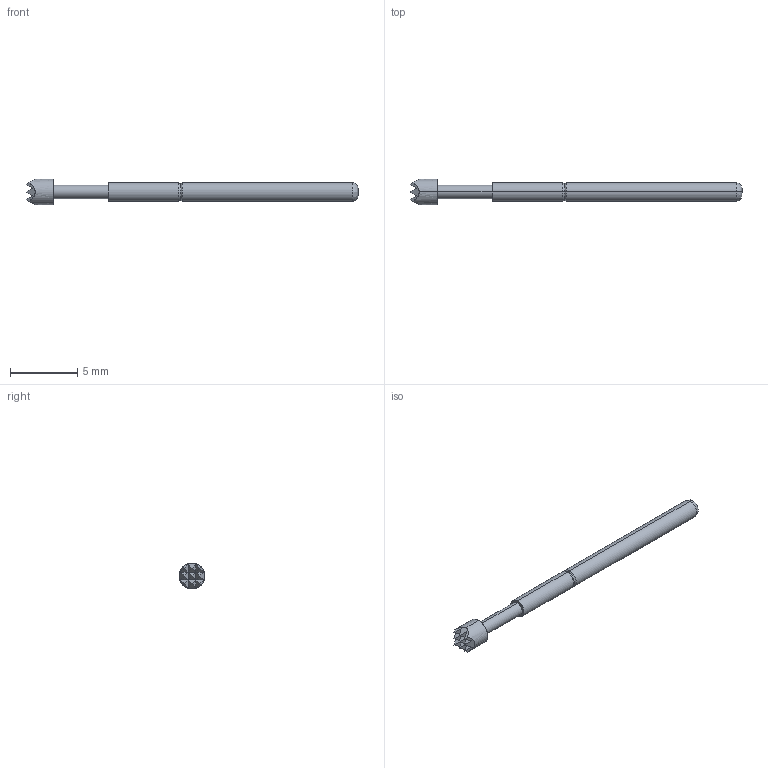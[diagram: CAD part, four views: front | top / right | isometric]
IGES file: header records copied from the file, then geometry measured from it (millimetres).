
Start section: SolidWorks IGES file using analytic representation for surfaces
Global section: file name: Z:\probe solid model mockups\Solidworks models\IGES Files\EPA-2\EPA-2H.IGS; native system: SolidWorks 2006 by SolidWorks Corporation; preprocessor: SolidWorks 2006 by SolidWorks Corporation; author: tsakatani; date: 071220.162034; units: inch
Bounding box: 24.64 x 1.91 x 1.91 mm (x, y, z)
Surface area: 111.1 mm2 (no closed solid volume)
Topology: 0 solids, 0 shells, 45 faces, 294 edges, 294 vertices
Faces by surface type: bspline 37, revolution 8
